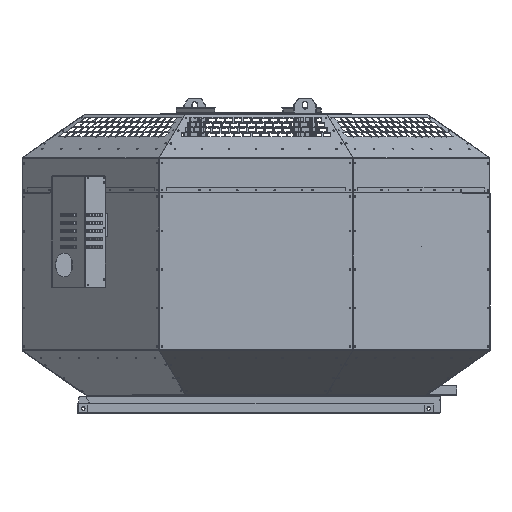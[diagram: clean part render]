
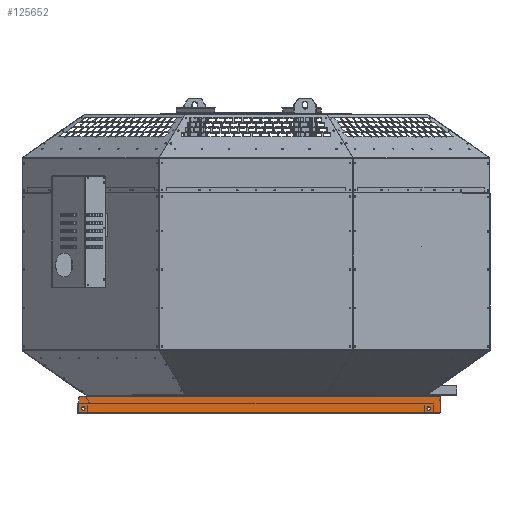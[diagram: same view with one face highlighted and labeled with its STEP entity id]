
A CAD part, top view. The second image highlights one B-rep face of the part: STEP entity #125652.
In plain terms, the highlighted planar face has unit normal (0, 0, 1).
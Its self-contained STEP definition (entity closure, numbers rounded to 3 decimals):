
#4416 = CARTESIAN_POINT ( 'NONE',  ( 449.5, -18.7, 468.1 ) ) ;
#5826 = CARTESIAN_POINT ( 'NONE',  ( 475.95, -25., 468.1 ) ) ;
#6662 = ORIENTED_EDGE ( 'NONE', *, *, #8515, .F. ) ;
#8363 = LINE ( 'NONE', #87337, #131460 ) ;
#8515 = EDGE_CURVE ( 'NONE', #137806, #37407, #101114, .T. ) ;
#8906 = FACE_BOUND ( 'NONE', #27055, .T. ) ;
#9313 = VECTOR ( 'NONE', #104600, 1000. ) ;
#10020 = ORIENTED_EDGE ( 'NONE', *, *, #150700, .F. ) ;
#10511 = VECTOR ( 'NONE', #68139, 1000. ) ;
#12434 = CIRCLE ( 'NONE', #58722, 4.5 ) ;
#16420 = DIRECTION ( 'NONE',  ( -1., 0., 0. ) ) ;
#17884 = VERTEX_POINT ( 'NONE', #108403 ) ;
#18834 = CARTESIAN_POINT ( 'NONE',  ( 449.5, -14.2, 468.1 ) ) ;
#19366 = EDGE_CURVE ( 'NONE', #116897, #79446, #50476, .T. ) ;
#19657 = DIRECTION ( 'NONE',  ( 0., 0., 1. ) ) ;
#22094 = VECTOR ( 'NONE', #40935, 1000. ) ;
#22654 = CARTESIAN_POINT ( 'NONE',  ( -458.05, -25., 468.1 ) ) ;
#23086 = ORIENTED_EDGE ( 'NONE', *, *, #19366, .F. ) ;
#25819 = LINE ( 'NONE', #100364, #22094 ) ;
#26028 = CARTESIAN_POINT ( 'NONE',  ( -449.5, -9.7, 468.1 ) ) ;
#27055 = EDGE_LOOP ( 'NONE', ( #32329, #151356 ) ) ;
#27417 = LINE ( 'NONE', #75833, #66610 ) ;
#28931 = CARTESIAN_POINT ( 'NONE',  ( -461.05, -22., 468.1 ) ) ;
#30828 = DIRECTION ( 'NONE',  ( 0., -1., 0. ) ) ;
#32329 = ORIENTED_EDGE ( 'NONE', *, *, #64267, .F. ) ;
#37407 = VERTEX_POINT ( 'NONE', #26028 ) ;
#39380 = VERTEX_POINT ( 'NONE', #81095 ) ;
#40015 = DIRECTION ( 'NONE',  ( 0., 0., 1. ) ) ;
#40935 = DIRECTION ( 'NONE',  ( 1., 0., 0. ) ) ;
#42403 = VERTEX_POINT ( 'NONE', #109780 ) ;
#42516 = EDGE_CURVE ( 'NONE', #116897, #47128, #135779, .T. ) ;
#42867 = ORIENTED_EDGE ( 'NONE', *, *, #147802, .F. ) ;
#47128 = VERTEX_POINT ( 'NONE', #22654 ) ;
#47202 = EDGE_CURVE ( 'NONE', #74999, #145889, #143195, .T. ) ;
#48243 = CARTESIAN_POINT ( 'NONE',  ( 475.95, -22., 468.1 ) ) ;
#50476 = LINE ( 'NONE', #111791, #138056 ) ;
#52963 = DIRECTION ( 'NONE',  ( 0., 0., 1. ) ) ;
#53183 = ORIENTED_EDGE ( 'NONE', *, *, #82042, .F. ) ;
#55618 = ORIENTED_EDGE ( 'NONE', *, *, #112170, .F. ) ;
#58722 = AXIS2_PLACEMENT_3D ( 'NONE', #135849, #64441, #147768 ) ;
#58981 = EDGE_CURVE ( 'NONE', #17884, #90458, #100739, .T. ) ;
#60190 = DIRECTION ( 'NONE',  ( 0., -1., 0. ) ) ;
#60889 = ORIENTED_EDGE ( 'NONE', *, *, #58981, .T. ) ;
#64267 = EDGE_CURVE ( 'NONE', #66917, #42403, #135414, .T. ) ;
#64441 = DIRECTION ( 'NONE',  ( 0., 0., 1. ) ) ;
#66610 = VECTOR ( 'NONE', #16420, 1000. ) ;
#66917 = VERTEX_POINT ( 'NONE', #4416 ) ;
#68139 = DIRECTION ( 'NONE',  ( 1., 0., 0. ) ) ;
#71037 = CARTESIAN_POINT ( 'NONE',  ( -449.5, -14.2, 468.1 ) ) ;
#72298 = EDGE_CURVE ( 'NONE', #42403, #66917, #12434, .T. ) ;
#72346 = FACE_OUTER_BOUND ( 'NONE', #134557, .T. ) ;
#74999 = VERTEX_POINT ( 'NONE', #5826 ) ;
#75833 = CARTESIAN_POINT ( 'NONE',  ( -461.05, -25., 468.1 ) ) ;
#79081 = PLANE ( 'NONE',  #138268 ) ;
#79446 = VERTEX_POINT ( 'NONE', #80841 ) ;
#80126 = CARTESIAN_POINT ( 'NONE',  ( -461.05, 16.6, 468.1 ) ) ;
#80590 = CARTESIAN_POINT ( 'NONE',  ( -461.05, 16.6, 468.1 ) ) ;
#80841 = CARTESIAN_POINT ( 'NONE',  ( -461.05, 13.6, 468.1 ) ) ;
#81082 = AXIS2_PLACEMENT_3D ( 'NONE', #117965, #133674, #114686 ) ;
#81095 = CARTESIAN_POINT ( 'NONE',  ( -458.05, 16.6, 468.1 ) ) ;
#81127 = CARTESIAN_POINT ( 'NONE',  ( -439.55, 16.6, 468.1 ) ) ;
#82042 = EDGE_CURVE ( 'NONE', #130116, #145889, #8363, .T. ) ;
#83019 = DIRECTION ( 'NONE',  ( 0., -1., 0. ) ) ;
#85200 = AXIS2_PLACEMENT_3D ( 'NONE', #18834, #102226, #30828 ) ;
#85225 = CIRCLE ( 'NONE', #128236, 3. ) ;
#85410 = CARTESIAN_POINT ( 'NONE',  ( 478.95, 16.6, 468.1 ) ) ;
#87337 = CARTESIAN_POINT ( 'NONE',  ( 478.95, 16.6, 468.1 ) ) ;
#89474 = EDGE_CURVE ( 'NONE', #39380, #79446, #85225, .T. ) ;
#90458 = VERTEX_POINT ( 'NONE', #81127 ) ;
#96355 = ORIENTED_EDGE ( 'NONE', *, *, #104551, .F. ) ;
#100311 = FACE_BOUND ( 'NONE', #152649, .T. ) ;
#100364 = CARTESIAN_POINT ( 'NONE',  ( 461.05, 16.6, 468.1 ) ) ;
#100739 = LINE ( 'NONE', #80590, #9313 ) ;
#101114 = CIRCLE ( 'NONE', #81082, 4.5 ) ;
#101594 = ORIENTED_EDGE ( 'NONE', *, *, #42516, .T. ) ;
#102226 = DIRECTION ( 'NONE',  ( 0., 0., 1. ) ) ;
#102969 = CIRCLE ( 'NONE', #141610, 4.5 ) ;
#103091 = DIRECTION ( 'NONE',  ( 0., -1., 0. ) ) ;
#104551 = EDGE_CURVE ( 'NONE', #39380, #90458, #133601, .T. ) ;
#104600 = DIRECTION ( 'NONE',  ( -1., 0., 0. ) ) ;
#107108 = CARTESIAN_POINT ( 'NONE',  ( 478.95, -22., 468.1 ) ) ;
#108403 = CARTESIAN_POINT ( 'NONE',  ( 475.55, 16.6, 468.1 ) ) ;
#109780 = CARTESIAN_POINT ( 'NONE',  ( 449.5, -9.7, 468.1 ) ) ;
#111302 = DIRECTION ( 'NONE',  ( 0., -1., 0. ) ) ;
#111450 = CARTESIAN_POINT ( 'NONE',  ( -458.05, 13.6, 468.1 ) ) ;
#111791 = CARTESIAN_POINT ( 'NONE',  ( -461.05, 18.5, 468.1 ) ) ;
#112119 = AXIS2_PLACEMENT_3D ( 'NONE', #48243, #131579, #60190 ) ;
#112170 = EDGE_CURVE ( 'NONE', #17884, #130116, #25819, .T. ) ;
#113480 = ORIENTED_EDGE ( 'NONE', *, *, #47202, .T. ) ;
#114137 = CARTESIAN_POINT ( 'NONE',  ( -449.5, -18.7, 468.1 ) ) ;
#114686 = DIRECTION ( 'NONE',  ( 0., -1., 0. ) ) ;
#116897 = VERTEX_POINT ( 'NONE', #28931 ) ;
#117965 = CARTESIAN_POINT ( 'NONE',  ( -449.5, -14.2, 468.1 ) ) ;
#121544 = ORIENTED_EDGE ( 'NONE', *, *, #89474, .T. ) ;
#123383 = DIRECTION ( 'NONE',  ( 0., -1., 0. ) ) ;
#123741 = DIRECTION ( 'NONE',  ( 0., 1., 0. ) ) ;
#124275 = CARTESIAN_POINT ( 'NONE',  ( -458.05, -22., 468.1 ) ) ;
#125652 = ADVANCED_FACE ( 'NONE', ( #8906, #100311, #72346 ), #79081, .T. ) ;
#126480 = CARTESIAN_POINT ( 'NONE',  ( -461.05, 18.5, 468.1 ) ) ;
#128236 = AXIS2_PLACEMENT_3D ( 'NONE', #111450, #40015, #123383 ) ;
#130116 = VERTEX_POINT ( 'NONE', #85410 ) ;
#130864 = AXIS2_PLACEMENT_3D ( 'NONE', #124275, #52963, #136294 ) ;
#131460 = VECTOR ( 'NONE', #111302, 1000. ) ;
#131579 = DIRECTION ( 'NONE',  ( 0., 0., 1. ) ) ;
#133601 = LINE ( 'NONE', #80126, #10511 ) ;
#133674 = DIRECTION ( 'NONE',  ( 0., 0., 1. ) ) ;
#134557 = EDGE_LOOP ( 'NONE', ( #96355, #121544, #23086, #101594, #10020, #113480, #53183, #55618, #60889 ) ) ;
#135414 = CIRCLE ( 'NONE', #85200, 4.5 ) ;
#135779 = CIRCLE ( 'NONE', #130864, 3. ) ;
#135849 = CARTESIAN_POINT ( 'NONE',  ( 449.5, -14.2, 468.1 ) ) ;
#136294 = DIRECTION ( 'NONE',  ( 0., -1., 0. ) ) ;
#137806 = VERTEX_POINT ( 'NONE', #114137 ) ;
#138056 = VECTOR ( 'NONE', #123741, 1000. ) ;
#138268 = AXIS2_PLACEMENT_3D ( 'NONE', #126480, #19657, #103091 ) ;
#141610 = AXIS2_PLACEMENT_3D ( 'NONE', #71037, #154312, #83019 ) ;
#143195 = CIRCLE ( 'NONE', #112119, 3. ) ;
#145889 = VERTEX_POINT ( 'NONE', #107108 ) ;
#147768 = DIRECTION ( 'NONE',  ( 0., -1., 0. ) ) ;
#147802 = EDGE_CURVE ( 'NONE', #37407, #137806, #102969, .T. ) ;
#150700 = EDGE_CURVE ( 'NONE', #74999, #47128, #27417, .T. ) ;
#151356 = ORIENTED_EDGE ( 'NONE', *, *, #72298, .F. ) ;
#152649 = EDGE_LOOP ( 'NONE', ( #6662, #42867 ) ) ;
#154312 = DIRECTION ( 'NONE',  ( 0., 0., 1. ) ) ;
